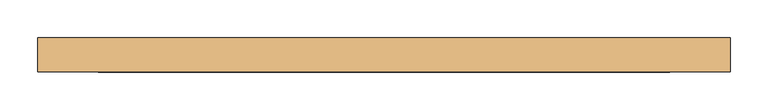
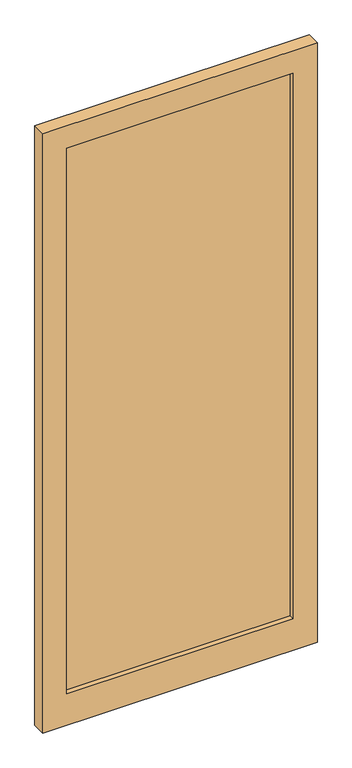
"""IFC4 building model written with IfcOpenShell, lengths in millimetres: door geometry, 開きドア(ガラス） : ガラス."""

from ifc_helpers import new_model, si_unit, frame, origin, place, context, project, spatial, polyline, outline, extrude, source, transform, mapped, element, save


def door_a2ed0d4c(model_context):
    return source(origin(), model_context, "Body", "SweptSolid", [
        extrude(outline(polyline([(827.5, 5.0257764), (827.5, -4.9742236), (72.5, -4.9742236), (72.5, 5.0257764), (827.5, 5.0257764)])), frame((0.0, 0.0, 110.0), z_axis=(0.0, 0.0, 1.0), x_axis=(1.0, 0.0, 0.0)), (0.0, 0.0, 1.0), 1920.0),
        extrude(outline(polyline([(0.0, 907.5), (2110.0, 907.5), (2110.0, -7.5), (0.0, -7.5), (0.0, 907.5)]), holes=[polyline([(110.0, 827.5), (110.0, 72.5), (2030.0, 72.5), (2030.0, 827.5), (110.0, 827.5)])]), frame((0.0, -22.4742236, 0.0), z_axis=(0.0, 1.0, 0.0), x_axis=(0.0, 0.0, 1.0)), (0.0, 0.0, 1.0), 45.0),
    ])


if __name__ == "__main__":
    model = new_model("IFC4")
    model_context = context("Model", 3, world=origin())
    ifc_project = project(units=[si_unit("LENGTHUNIT", "METRE", prefix="MILLI")], contexts=[model_context])
    site = spatial("IfcSite", under=ifc_project)
    building = spatial("IfcBuilding", under=site)
    placement = place(None, origin())
    door_shape = door_a2ed0d4c(model_context)
    element("IfcDoor", 1, ObjectType="開きドア(ガラス） : ガラス", at=placement, inside=building, context=model_context, shape_type="MappedRepresentation", body=[
        mapped(door_shape, transform((0.0, 0.0, 0.0), x_axis=(1.0, 0.0, 0.0), y_axis=(0.0, 1.0, 0.0), z_axis=(0.0, 0.0, 1.0))),
    ])
    save(model, "model.ifc")
